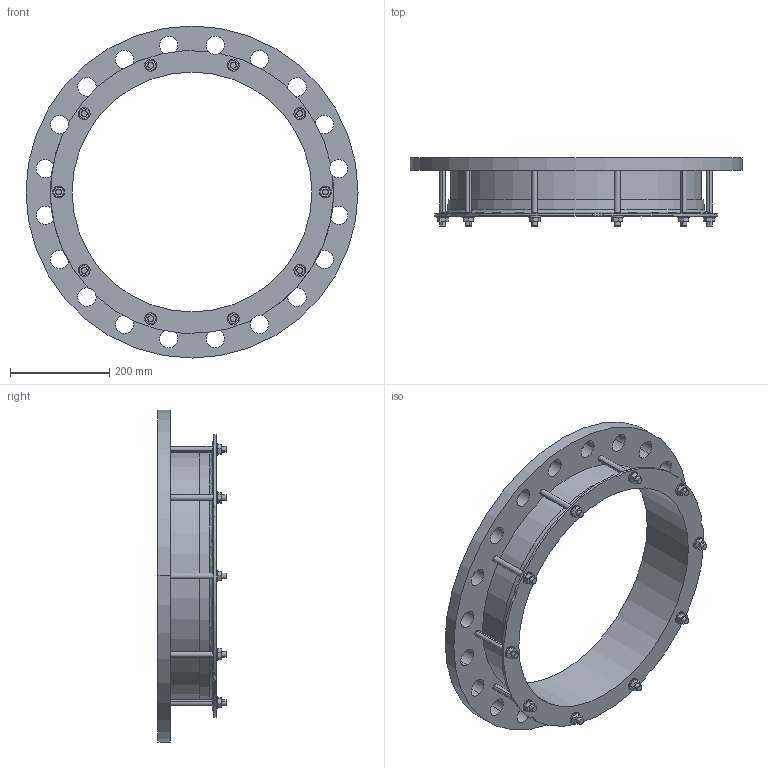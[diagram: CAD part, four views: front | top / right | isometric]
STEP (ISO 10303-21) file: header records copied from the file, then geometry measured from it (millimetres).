
FILE_DESCRIPTION((''),'2;1');
FILE_NAME('480X450PN25_5NOT','2019-04-04T',('mfairey'),('Glynwed Pipe Systems'),'CREO PARAMETRIC BY PTC INC, 2016130','CREO PARAMETRIC BY PTC INC, 2016130','');
FILE_SCHEMA(('CONFIG_CONTROL_DESIGN'));
Length unit declared in the file: millimetre
Products named in the file (1): 480X450PN25_5NOT
Bounding box: 670 x 137.45 x 670 mm (x, y, z)
Volume: 6018207.7 mm3; surface area: 872694.3 mm2
Topology: 1 solids, 1 shells, 216 faces, 574 edges, 382 vertices
Faces by surface type: cylinder 116, plane 94, cone 4, torus 2
Entity records: 7538 total; most frequent: CARTESIAN_POINT 1859, DIRECTION 1182, ORIENTED_EDGE 1148, EDGE_CURVE 574, AXIS2_PLACEMENT_3D 441, VERTEX_POINT 382, VECTOR 300, LINE 300
